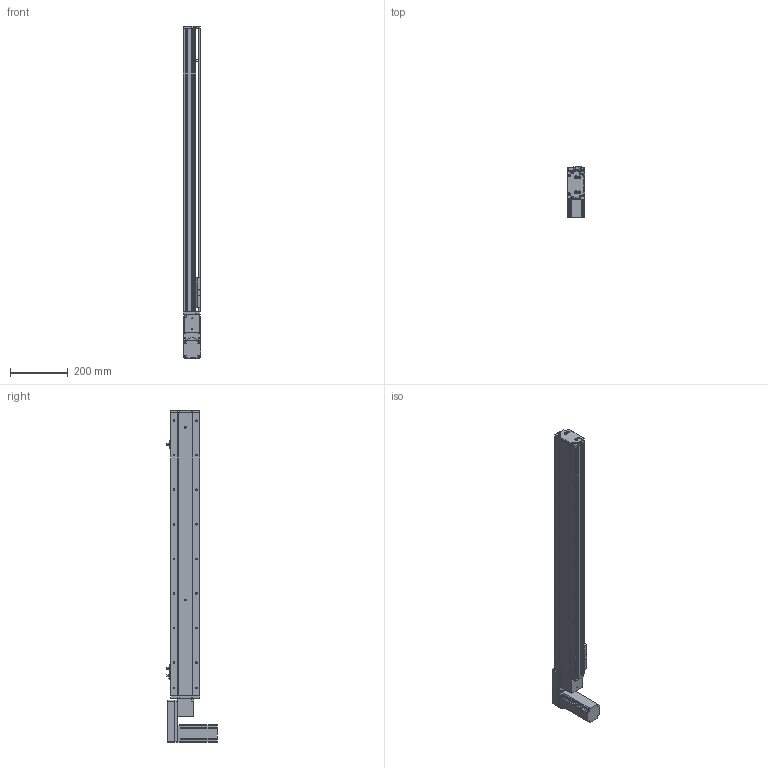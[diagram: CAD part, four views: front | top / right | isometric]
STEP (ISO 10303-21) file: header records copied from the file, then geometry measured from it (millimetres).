
FILE_DESCRIPTION (( 'STEP AP214' ), '1' );
FILE_NAME ('KSD100B-S800-MLB-CM.STEP', '2019-08-31T01:43:33', ( '微软用户' ), ( '微软中国' ), 'SwSTEP 2.0', 'SolidWorks 2014', '' );
FILE_SCHEMA (( 'AUTOMOTIVE_DESIGN' ));
Length unit declared in the file: millimetre
Products named in the file (12): 100宽防尘板800行程-同步带; 100宽马达安装板同步带左; 100宽同步带安装板半封闭; 100宽马达安装板同步带; 100遵傷啣肮祭湍; 100宽底板半封闭同步带800行程; KSD100B-S800-MLB-CM; 悵誘欶奻狟殏; 100宽马达安装板连板上下折丝杆同步带; 台达ECMA－C20604AS伺服电机; U倰嫖萇EEㄜSX672; 覜茼え100遵圉猾敕
Assembly tree (13 placements, depth 2):
  KSD100B-S800-MLB-CM
    100宽底板半封闭同步带800行程
    100遵傷啣肮祭湍
    100宽马达安装板同步带
    100宽同步带安装板半封闭
    100宽马达安装板同步带左
    100宽防尘板800行程-同步带
    覜茼え100遵圉猾敕
    U倰嫖萇EEㄜSX672  x3
    台达ECMA－C20604AS伺服电机
    100宽马达安装板连板上下折丝杆同步带
    悵誘欶奻狟殏
Bounding box: 61 x 174.7 x 1153 mm (x, y, z)
Volume: 2535454.9 mm3; surface area: 830684.4 mm2
Topology: 14 solids, 14 shells, 1427 faces, 4010 edges, 2557 vertices
Faces by surface type: cylinder 713, plane 587, cone 127
Entity records: 50423 total; most frequent: CARTESIAN_POINT 9824, DIRECTION 6942, ORIENTED_EDGE 6672, EDGE_CURVE 3336, AXIS2_PLACEMENT_3D 2533, VERTEX_POINT 2181, VECTOR 1876, LINE 1876
